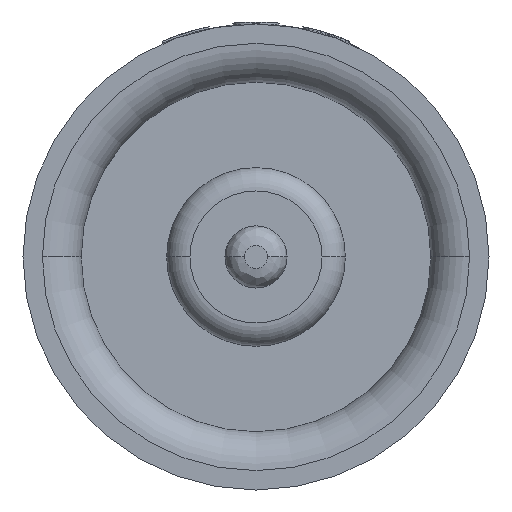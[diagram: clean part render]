
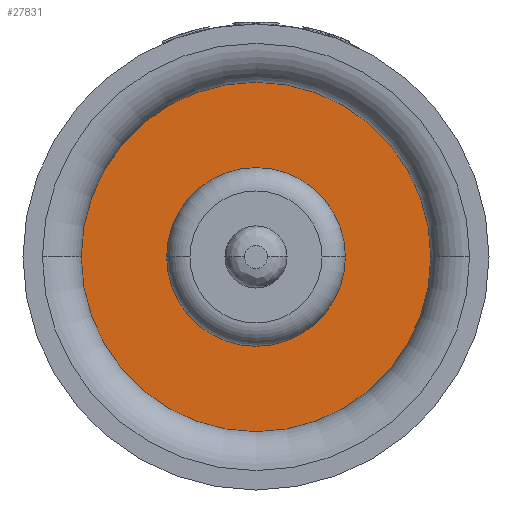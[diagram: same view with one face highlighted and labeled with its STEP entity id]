
A CAD part, left-side view. The second image highlights one B-rep face of the part: STEP entity #27831.
In plain terms, the highlighted planar face has unit normal (-1, 0, 0).
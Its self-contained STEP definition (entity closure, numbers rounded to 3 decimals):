
#14435=CARTESIAN_POINT('',(3.95,0.,0.));
#14436=DIRECTION('',(1.,0.,0.));
#14437=DIRECTION('',(0.,1.,0.));
#14438=AXIS2_PLACEMENT_3D('',#14435,#14436,#14437);
#14443=CARTESIAN_POINT('',(3.95,0.,0.));
#14444=DIRECTION('',(-1.,0.,0.));
#14445=DIRECTION('',(0.,1.,0.));
#14446=AXIS2_PLACEMENT_3D('',#14443,#14444,#14445);
#14459=CARTESIAN_POINT('',(3.95,0.,0.));
#14460=DIRECTION('',(-1.,0.,0.));
#14461=DIRECTION('',(0.,1.,0.));
#14462=AXIS2_PLACEMENT_3D('',#14459,#14460,#14461);
#14592=CARTESIAN_POINT('',(3.95,0.,0.));
#14593=DIRECTION('',(1.,0.,0.));
#14594=DIRECTION('',(0.,1.,0.));
#14595=AXIS2_PLACEMENT_3D('',#14592,#14593,#14594);
#14675=CARTESIAN_POINT('',(3.95,1.15,0.));
#14676=VERTEX_POINT('',#14675);
#14677=CARTESIAN_POINT('',(3.95,-1.15,0.));
#14678=VERTEX_POINT('',#14677);
#14687=CARTESIAN_POINT('',(3.95,2.325,0.));
#14688=VERTEX_POINT('',#14687);
#14689=CARTESIAN_POINT('',(3.95,-2.325,0.));
#14690=VERTEX_POINT('',#14689);
#27816=CARTESIAN_POINT('',(3.95,0.,0.));
#27817=DIRECTION('',(-1.,0.,0.));
#27818=DIRECTION('',(0.,1.,0.));
#27819=AXIS2_PLACEMENT_3D('',#27816,#27817,#27818);
#27820=PLANE('',#27819);
#27821=ORIENTED_EDGE('',*,*,#27772,.T.);
#27822=ORIENTED_EDGE('',*,*,#27757,.F.);
#27823=EDGE_LOOP('',(#27821,#27822));
#27824=FACE_OUTER_BOUND('',#27823,.F.);
#27826=ORIENTED_EDGE('',*,*,#27825,.T.);
#27828=ORIENTED_EDGE('',*,*,#27827,.F.);
#27829=EDGE_LOOP('',(#27826,#27828));
#27830=FACE_BOUND('',#27829,.F.);
#27831=ADVANCED_FACE('',(#27824,#27830),#27820,.T.);
#14439=CIRCLE('',#14438,2.325);
#14447=CIRCLE('',#14446,2.325);
#14463=CIRCLE('',#14462,1.15);
#14596=CIRCLE('',#14595,1.15);
#27757=EDGE_CURVE('',#14688,#14690,#14447,.T.);
#27772=EDGE_CURVE('',#14688,#14690,#14439,.T.);
#27825=EDGE_CURVE('',#14676,#14678,#14463,.T.);
#27827=EDGE_CURVE('',#14676,#14678,#14596,.T.);
